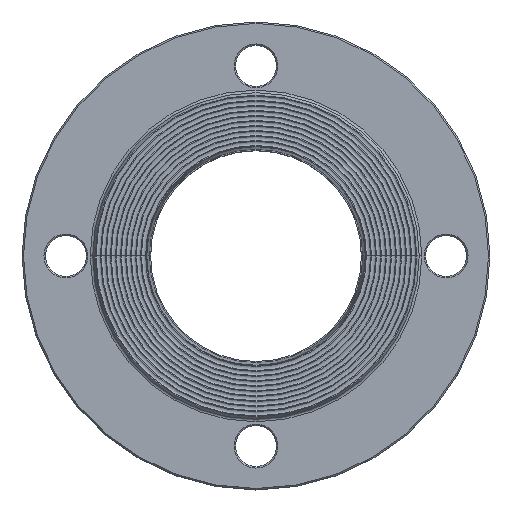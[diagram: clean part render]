
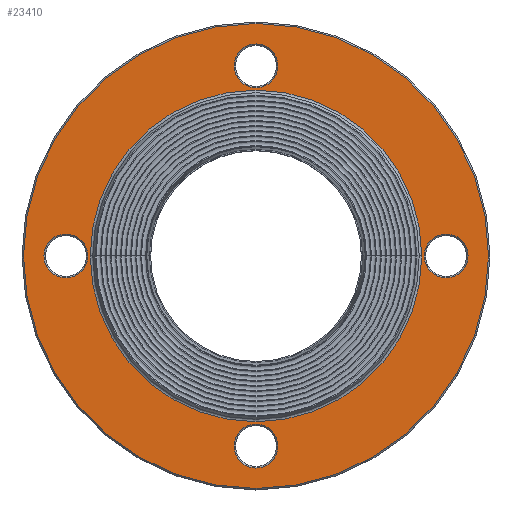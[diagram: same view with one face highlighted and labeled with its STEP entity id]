
A CAD part, top view. The second image highlights one B-rep face of the part: STEP entity #23410.
In plain terms, the highlighted planar face has unit normal (0, 0, 1).
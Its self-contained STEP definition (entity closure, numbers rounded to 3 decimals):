
#3670=CARTESIAN_POINT('',(166.688,110.,14.123));
#3680=VERTEX_POINT('',#3670);
#3710=CARTESIAN_POINT('',(110.,110.,14.123));
#3720=DIRECTION('',(0.,0.,1.));
#3730=DIRECTION('',(-1.,0.,0.));
#3740=AXIS2_PLACEMENT_3D('',#3710,#3720,#3730);
#3750=CIRCLE('',#3740,56.688);
#3760=CARTESIAN_POINT('',(53.312,110.,14.123));
#3770=VERTEX_POINT('',#3760);
#3780=EDGE_CURVE('',#3770,#3680,#3750,.T.);
#12040=EDGE_CURVE('',#3680,#3770,#3750,.T.);
#21080=CARTESIAN_POINT('',(117.5,175.,14.123));
#21090=VERTEX_POINT('',#21080);
#21120=CARTESIAN_POINT('',(110.,175.,14.123));
#21130=DIRECTION('',(0.,0.,1.));
#21140=DIRECTION('',(1.,0.,0.));
#21150=AXIS2_PLACEMENT_3D('',#21120,#21130,#21140);
#21160=CIRCLE('',#21150,7.5);
#21170=CARTESIAN_POINT('',(102.5,175.,14.123));
#21180=VERTEX_POINT('',#21170);
#21190=EDGE_CURVE('',#21180,#21090,#21160,.T.);
#21510=EDGE_CURVE('',#21090,#21180,#21160,.T.);
#21980=CARTESIAN_POINT('',(52.5,110.,14.123));
#21990=VERTEX_POINT('',#21980);
#22020=CARTESIAN_POINT('',(45.,110.,14.123));
#22030=DIRECTION('',(0.,0.,1.));
#22040=DIRECTION('',(1.,0.,0.));
#22050=AXIS2_PLACEMENT_3D('',#22020,#22030,#22040);
#22060=CIRCLE('',#22050,7.5);
#22070=CARTESIAN_POINT('',(37.5,110.,14.123));
#22080=VERTEX_POINT('',#22070);
#22090=EDGE_CURVE('',#22080,#21990,#22060,.T.);
#22410=EDGE_CURVE('',#21990,#22080,#22060,.T.);
#22790=CARTESIAN_POINT('',(41.063,110.,14.123));
#22800=DIRECTION('',(0.,0.,-1.));
#22810=DIRECTION('',(-1.,0.,0.));
#22820=AXIS2_PLACEMENT_3D('',#22790,#22800,#22810);
#22830=PLANE('',#22820);
#22840=ORIENTED_EDGE('',*,*,#21510,.F.);
#22850=ORIENTED_EDGE('',*,*,#21190,.F.);
#22860=EDGE_LOOP('',(#22850,#22840));
#22870=FACE_BOUND('',#22860,.T.);
#22880=ORIENTED_EDGE('',*,*,#22410,.F.);
#22890=ORIENTED_EDGE('',*,*,#22090,.F.);
#22900=EDGE_LOOP('',(#22890,#22880));
#22910=FACE_BOUND('',#22900,.T.);
#22920=CARTESIAN_POINT('',(175.,110.,14.123));
#22930=DIRECTION('',(0.,0.,1.));
#22940=DIRECTION('',(1.,0.,0.));
#22950=AXIS2_PLACEMENT_3D('',#22920,#22930,#22940);
#22960=CIRCLE('',#22950,7.5);
#22970=CARTESIAN_POINT('',(182.5,110.,14.123));
#22980=VERTEX_POINT('',#22970);
#22990=CARTESIAN_POINT('',(167.5,110.,14.123));
#23000=VERTEX_POINT('',#22990);
#23010=EDGE_CURVE('',#22980,#23000,#22960,.T.);
#23020=ORIENTED_EDGE('',*,*,#23010,.F.);
#23030=EDGE_CURVE('',#23000,#22980,#22960,.T.);
#23040=ORIENTED_EDGE('',*,*,#23030,.F.);
#23050=EDGE_LOOP('',(#23040,#23020));
#23060=FACE_BOUND('',#23050,.T.);
#23070=ORIENTED_EDGE('',*,*,#3780,.F.);
#23080=ORIENTED_EDGE('',*,*,#12040,.F.);
#23090=EDGE_LOOP('',(#23080,#23070));
#23100=FACE_BOUND('',#23090,.T.);
#23110=CARTESIAN_POINT('',(110.,45.,14.123));
#23120=DIRECTION('',(0.,0.,1.));
#23130=DIRECTION('',(1.,0.,0.));
#23140=AXIS2_PLACEMENT_3D('',#23110,#23120,#23130);
#23150=CIRCLE('',#23140,7.5);
#23160=CARTESIAN_POINT('',(117.5,45.,14.123));
#23170=VERTEX_POINT('',#23160);
#23180=CARTESIAN_POINT('',(102.5,45.,14.123));
#23190=VERTEX_POINT('',#23180);
#23200=EDGE_CURVE('',#23170,#23190,#23150,.T.);
#23210=ORIENTED_EDGE('',*,*,#23200,.F.);
#23220=EDGE_CURVE('',#23190,#23170,#23150,.T.);
#23230=ORIENTED_EDGE('',*,*,#23220,.F.);
#23240=EDGE_LOOP('',(#23230,#23210));
#23250=FACE_BOUND('',#23240,.T.);
#23260=CARTESIAN_POINT('',(110.,110.,14.123));
#23270=DIRECTION('',(0.,0.,1.));
#23280=DIRECTION('',(1.,0.,0.));
#23290=AXIS2_PLACEMENT_3D('',#23260,#23270,#23280);
#23300=CIRCLE('',#23290,79.5);
#23310=CARTESIAN_POINT('',(189.5,110.,14.123));
#23320=VERTEX_POINT('',#23310);
#23330=CARTESIAN_POINT('',(30.5,110.,14.123));
#23340=VERTEX_POINT('',#23330);
#23350=EDGE_CURVE('',#23320,#23340,#23300,.T.);
#23360=ORIENTED_EDGE('',*,*,#23350,.T.);
#23370=EDGE_CURVE('',#23340,#23320,#23300,.T.);
#23380=ORIENTED_EDGE('',*,*,#23370,.T.);
#23390=EDGE_LOOP('',(#23380,#23360));
#23400=FACE_OUTER_BOUND('',#23390,.T.);
#23410=ADVANCED_FACE('',(#22870,#22910,#23060,#23100,#23250,#23400),
#22830,.F.);
